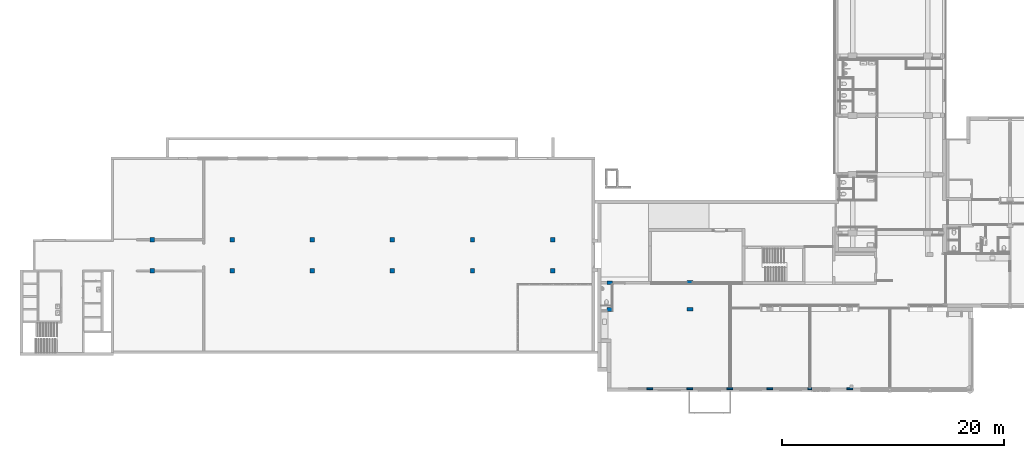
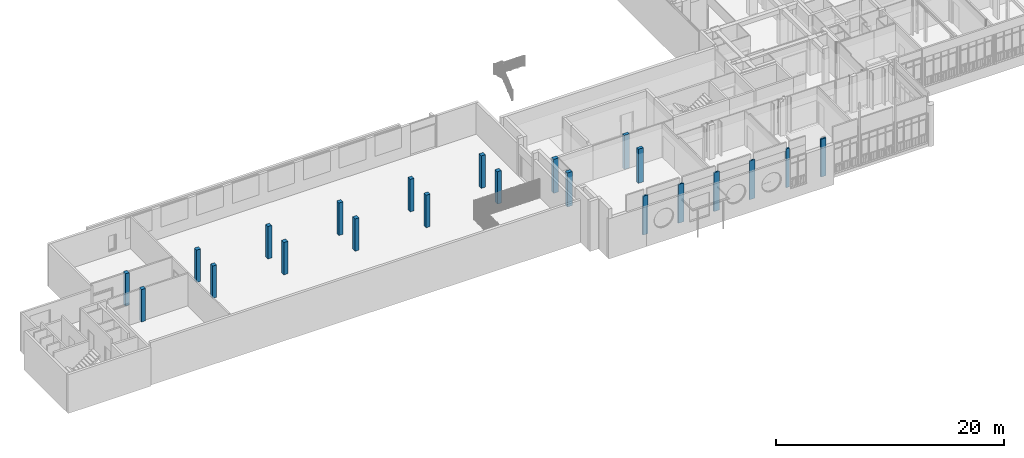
# One storey, part 47 of 135: 22 columns.
"""IFC2X3 building model written with IfcOpenShell, lengths in millimetres."""

from ifc_helpers import new_model, entity, si_unit, converted_unit, derived_unit, money_unit, direction, frame, origin_with_axes, place, context, subcontext, project, spatial, faceted_brep, material, type_object, element, save


model = new_model("IFC2X3")

# Units and contexts
model_context = context("Model", 3, precision=0.01, world=origin_with_axes(), true_north=direction((0.0, 1.0)))
body_context = subcontext(model_context, "Body", "Model", "MODEL_VIEW")
ifc_project = project(units=[si_unit("LENGTHUNIT", "METRE", prefix="MILLI"), si_unit("AREAUNIT", "SQUARE_METRE"), si_unit("VOLUMEUNIT", "CUBIC_METRE"), converted_unit("PLANEANGLEUNIT", "DEGREE", entity("IfcPlaneAngleMeasure", 0.0174532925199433), si_unit("PLANEANGLEUNIT", "RADIAN"), dimensions=[0, 0, 0, 0, 0, 0, 0]), money_unit("EUR"), converted_unit("TIMEUNIT", "Year", entity("IfcTimeMeasure", 31557600.0), si_unit("TIMEUNIT", "SECOND"), dimensions=[0, 0, 1, 0, 0, 0, 0]), si_unit("MASSUNIT", "GRAM", prefix="KILO"), si_unit("THERMODYNAMICTEMPERATUREUNIT", "DEGREE_CELSIUS"), si_unit("LUMINOUSINTENSITYUNIT", "LUMEN"), si_unit("ENERGYUNIT", "JOULE", prefix="MEGA"), derived_unit("THERMALCONDUCTANCEUNIT", [(si_unit("POWERUNIT", "WATT"), 1), (si_unit("LENGTHUNIT", "METRE"), -1), (si_unit("THERMODYNAMICTEMPERATUREUNIT", "KELVIN"), -1)]), derived_unit("SPECIFICHEATCAPACITYUNIT", [(si_unit("ENERGYUNIT", "JOULE"), 1), (si_unit("MASSUNIT", "GRAM", prefix="KILO"), -1), (si_unit("THERMODYNAMICTEMPERATUREUNIT", "KELVIN"), -1)]), derived_unit("MASSDENSITYUNIT", [(si_unit("MASSUNIT", "GRAM", prefix="KILO"), 1), (si_unit("VOLUMEUNIT", "CUBIC_METRE"), -1)])], contexts=[model_context])

# Site, building, storey
site_placement = place(None, origin_with_axes())
site = spatial("IfcSite", under=ifc_project, at=site_placement, Name="Site", CompositionType="ELEMENT")
building_placement = place(site_placement, origin_with_axes())
building = spatial("IfcBuilding", under=site, at=building_placement, Name="Naam gebouw", CompositionType="ELEMENT")
storey_placement = place(building_placement, origin_with_axes())
storey = spatial("IfcBuildingStorey", under=building, at=storey_placement, Name="Begane grond N", CompositionType="ELEMENT", Elevation=0.0)

# Columns
ifc_material = material(Name="ALG - CONSTRUCTIEF KOLOM")
column_type_1 = type_object("IfcColumnType", Name="ALG - CONSTRUCTIEF KOLOM 540 x 310", PredefinedType="COLUMN")
for number, where, z_axis, x_axis, name in (
    (1, (7200.0, 12945.85635739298, -100.0), (0.0, 0.0, 1.0), (1.0, 0.0, 0.0), "_Kolom-x"),
    (2, (7200.0, 10495.91242510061, -100.0), (0.0, 0.0, 1.0), (1.0, 0.0, 0.0), "_Kolom-x"),
):
    element("IfcColumn", number, at=place(storey_placement, frame(where, z_axis=z_axis, x_axis=x_axis)), inside=storey, type_object=column_type_1, material=ifc_material, Name=name, ObjectType="COLUMN", context=body_context, shape_type="Brep", body=[
        faceted_brep([(269.9999999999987, -155.0000000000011, 3750.0), (269.9999999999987, -155.0000000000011, 100.0), (269.9999999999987, 155.0000000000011, 100.0), (269.9999999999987, 155.0000000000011, 3750.0), (-270.0000000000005, -155.0000000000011, 3750.0), (-270.0000000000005, -155.0000000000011, 100.0), (-270.0000000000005, 155.0000000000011, 100.0), (-270.0000000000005, 155.0000000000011, 3750.0)], [[[0, 1, 2, 3]], [[4, 5, 1, 0]], [[5, 6, 2, 1]], [[3, 2, 6, 7]], [[4, 0, 3, 7]], [[7, 6, 5, 4]]]),
    ])
column_type_2 = type_object("IfcColumnType", Name="ALG - CONSTRUCTIEF KOLOM 500 x 355", PredefinedType="COLUMN")
column_1_placement = place(storey_placement, frame((0.0, 12895.91242510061, -100.0), z_axis=(0.0, 0.0, 1.0), x_axis=(1.0, 0.0, 0.0)))
element("IfcColumn", 3, at=column_1_placement, inside=storey, type_object=column_type_2, material=ifc_material, Name="_Kolom-x", ObjectType="COLUMN", context=body_context, shape_type="Brep", body=[
    faceted_brep([(249.9999999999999, -177.4999999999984, 3750.0), (249.9999999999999, -177.4999999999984, 100.0), (249.9999999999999, 177.4999999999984, 100.0), (249.9999999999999, 177.4999999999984, 3750.0), (-250.0000000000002, -177.4999999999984, 3750.0), (-250.0000000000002, -177.4999999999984, 100.0), (-250.0000000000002, 177.4999999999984, 100.0), (-250.0000000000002, 177.4999999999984, 3750.0)], [[[0, 1, 2, 3]], [[4, 5, 1, 0]], [[5, 6, 2, 1]], [[3, 2, 6, 7]], [[4, 0, 3, 7]], [[7, 6, 5, 4]]]),
])
column_2_placement = place(storey_placement, frame((0.0, 10495.91242510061, -100.0), z_axis=(0.0, 0.0, 1.0), x_axis=(1.0, 0.0, 0.0)))
element("IfcColumn", 4, at=column_2_placement, inside=storey, type_object=column_type_2, material=ifc_material, Name="_Kolom-x", ObjectType="COLUMN", context=body_context, shape_type="Brep", body=[
    faceted_brep([(250.0, -177.500000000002, 3750.0), (250.0, -177.500000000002, 100.0), (250.0, 177.500000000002, 100.0), (250.0, 177.500000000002, 3750.0), (-250.0, -177.500000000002, 3750.0), (-250.0, -177.500000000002, 100.0), (-250.0, 177.500000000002, 100.0), (-250.0, 177.500000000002, 3750.0)], [[[0, 1, 2, 3]], [[4, 5, 1, 0]], [[5, 6, 2, 1]], [[3, 2, 6, 7]], [[4, 0, 3, 7]], [[7, 6, 5, 4]]]),
])
column_type_3 = type_object("IfcColumnType", Name="ALG - CONSTRUCTIEF KOLOM 400 x 400", PredefinedType="COLUMN")
for number, where, z_axis, x_axis, name in (
    (5, (-33950.0, 16765.57502437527, 0.0), (0.0, 0.0, 1.0), (1.0, 0.0, 0.0), "_Kolom-x"),
    (6, (-41150.00000000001, 16765.57502437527, 0.0), (0.0, 0.0, 1.0), (1.0, 0.0, 0.0), "_Kolom-x"),
    (7, (-41150.00000000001, 13965.57502437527, 0.0), (0.0, 0.0, 1.0), (1.0, 0.0, 0.0), "_Kolom-x"),
    (8, (-33950.0, 13965.57502437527, 0.0), (0.0, 0.0, 1.0), (1.0, 0.0, 0.0), "_Kolom-x"),
):
    element("IfcColumn", number, at=place(storey_placement, frame(where, z_axis=z_axis, x_axis=x_axis)), inside=storey, type_object=column_type_3, material=ifc_material, Name=name, ObjectType="COLUMN", context=body_context, shape_type="Brep", body=[
        faceted_brep([(200.0000000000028, -199.9999999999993, 3470.0), (-200.0000000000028, -199.9999999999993, 3470.0), (-200.0000000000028, -199.9999999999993, 0.0), (200.0000000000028, -199.9999999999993, 0.0), (200.0000000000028, 199.9999999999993, 3470.0), (-200.0000000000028, 199.9999999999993, 3470.0), (-200.0000000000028, 199.9999999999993, 0.0), (200.0000000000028, 199.9999999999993, 0.0)], [[[0, 1, 2, 3]], [[4, 5, 1, 0]], [[1, 5, 6, 2]], [[7, 3, 2, 6]], [[4, 0, 3, 7]], [[5, 4, 7, 6]]]),
    ])
for number, where, z_axis, x_axis, name in (
    (9, (-12350.0, 16765.57502437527, 0.0), (0.0, 0.0, 1.0), (1.0, 0.0, 0.0), "_Kolom-x"),
    (10, (-26750.0, 16765.57502437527, 0.0), (0.0, 0.0, 1.0), (1.0, 0.0, 0.0), "_Kolom-x"),
    (11, (-26750.0, 13965.57502437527, 0.0), (0.0, 0.0, 1.0), (1.0, 0.0, 0.0), "_Kolom-x"),
    (12, (-19550.0, 13965.57502437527, 0.0), (0.0, 0.0, 1.0), (1.0, 0.0, 0.0), "_Kolom-x"),
    (13, (-19550.0, 16765.57502437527, 0.0), (0.0, 0.0, 1.0), (1.0, 0.0, 0.0), "_Kolom-x"),
):
    element("IfcColumn", number, at=place(storey_placement, frame(where, z_axis=z_axis, x_axis=x_axis)), inside=storey, type_object=column_type_3, material=ifc_material, Name=name, ObjectType="COLUMN", context=body_context, shape_type="Brep", body=[
        faceted_brep([(199.9999999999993, -199.9999999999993, 3470.0), (-199.9999999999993, -199.9999999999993, 3470.0), (-199.9999999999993, -199.9999999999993, 0.0), (199.9999999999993, -199.9999999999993, 0.0), (199.9999999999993, 199.9999999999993, 3470.0), (-199.9999999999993, 199.9999999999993, 3470.0), (-199.9999999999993, 199.9999999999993, 0.0), (199.9999999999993, 199.9999999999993, 0.0)], [[[0, 1, 2, 3]], [[4, 5, 1, 0]], [[1, 5, 6, 2]], [[7, 3, 2, 6]], [[4, 0, 3, 7]], [[5, 4, 7, 6]]]),
    ])
column_3_placement = place(storey_placement, frame((-5150.000000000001, 16765.57502437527, 0.0), z_axis=(0.0, 0.0, 1.0), x_axis=(1.0, 0.0, 0.0)))
element("IfcColumn", 14, at=column_3_placement, inside=storey, type_object=column_type_3, material=ifc_material, Name="_Kolom-x", ObjectType="COLUMN", context=body_context, shape_type="Brep", body=[
    faceted_brep([(199.9999999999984, -199.9999999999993, 3470.0), (-200.0000000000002, -199.9999999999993, 3470.0), (-200.0000000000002, -199.9999999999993, 0.0), (199.9999999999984, -199.9999999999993, 0.0), (199.9999999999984, 199.9999999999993, 3470.0), (-200.0000000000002, 199.9999999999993, 3470.0), (-200.0000000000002, 199.9999999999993, 0.0), (199.9999999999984, 199.9999999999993, 0.0)], [[[0, 1, 2, 3]], [[4, 5, 1, 0]], [[1, 5, 6, 2]], [[7, 3, 2, 6]], [[4, 0, 3, 7]], [[5, 4, 7, 6]]]),
])
column_4_placement = place(storey_placement, frame((-12350.0, 13965.57502437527, 0.0), z_axis=(0.0, 0.0, 1.0), x_axis=(1.0, 0.0, 0.0)))
element("IfcColumn", 15, at=column_4_placement, inside=storey, type_object=column_type_3, material=ifc_material, Name="_Kolom-x", ObjectType="COLUMN", context=body_context, shape_type="Brep", body=[
    faceted_brep([(199.9999999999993, -199.9999999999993, 3470.0), (-199.9999999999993, -199.9999999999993, 3470.0), (-199.9999999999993, -199.9999999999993, 0.0), (199.9999999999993, -199.9999999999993, 0.0), (199.9999999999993, 199.9999999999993, 3470.0), (-199.9999999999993, 199.9999999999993, 3470.0), (-199.9999999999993, 199.9999999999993, 0.0), (199.9999999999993, 199.9999999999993, 0.0)], [[[0, 1, 2, 3]], [[4, 5, 1, 0]], [[1, 5, 6, 2]], [[7, 3, 2, 6]], [[4, 0, 3, 7]], [[5, 4, 7, 6]]]),
])
column_5_placement = place(storey_placement, frame((-5150.0, 13965.57502437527, 0.0), z_axis=(0.0, 0.0, 1.0), x_axis=(1.0, 0.0, 0.0)))
element("IfcColumn", 16, at=column_5_placement, inside=storey, type_object=column_type_3, material=ifc_material, Name="_Kolom-x", ObjectType="COLUMN", context=body_context, shape_type="Brep", body=[
    faceted_brep([(200.0000000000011, -199.9999999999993, 3470.0), (-200.0000000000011, -199.9999999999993, 3470.0), (-200.0000000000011, -199.9999999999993, 0.0), (200.0000000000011, -199.9999999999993, 0.0), (200.0000000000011, 199.9999999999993, 3470.0), (-200.0000000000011, 199.9999999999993, 3470.0), (-200.0000000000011, 199.9999999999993, 0.0), (200.0000000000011, 199.9999999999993, 0.0)], [[[0, 1, 2, 3]], [[4, 5, 1, 0]], [[1, 5, 6, 2]], [[7, 3, 2, 6]], [[4, 0, 3, 7]], [[5, 4, 7, 6]]]),
])
column_type_4 = type_object("IfcColumnType", Name="ALG - CONSTRUCTIEF KOLOM 540 x 150", PredefinedType="COLUMN")
column_6_placement = place(storey_placement, frame((7199.999999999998, 3370.668707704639, 0.0), z_axis=(0.0, 0.0, 1.0), x_axis=(1.0, 0.0, 0.0)))
element("IfcColumn", 17, at=column_6_placement, inside=storey, type_object=column_type_4, material=ifc_material, Name="_Kolom-x", ObjectType="COLUMN", context=body_context, shape_type="Brep", body=[
    faceted_brep([(-270.0000000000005, -75.00000000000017, 4150.0), (-270.0000000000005, -75.00000000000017, 0.0), (270.0000000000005, -75.00000000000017, 0.0), (270.0000000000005, -75.00000000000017, 4150.0), (-270.0000000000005, 75.00000000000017, 4150.0), (-270.0000000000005, 75.00000000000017, 0.0), (270.0000000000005, 75.00000000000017, 0.0), (270.0000000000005, 75.00000000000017, 4150.0)], [[[0, 1, 2, 3]], [[4, 5, 1, 0]], [[2, 1, 5, 6]], [[3, 2, 6, 7]], [[4, 0, 3, 7]], [[7, 6, 5, 4]]]),
])
column_7_placement = place(storey_placement, frame((14400.0, 3370.668707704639, 0.0), z_axis=(0.0, 0.0, 1.0), x_axis=(1.0, 0.0, 0.0)))
element("IfcColumn", 18, at=column_7_placement, inside=storey, type_object=column_type_4, material=ifc_material, Name="_Kolom-x", ObjectType="COLUMN", context=body_context, shape_type="Brep", body=[
    faceted_brep([(-269.9999999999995, -75.00000000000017, 4150.0), (-269.9999999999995, -75.00000000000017, 0.0), (269.9999999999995, -75.00000000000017, 0.0), (269.9999999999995, -75.00000000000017, 4150.0), (-269.9999999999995, 75.00000000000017, 4150.0), (-269.9999999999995, 75.00000000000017, 0.0), (269.9999999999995, 75.00000000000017, 0.0), (269.9999999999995, 75.00000000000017, 4150.0)], [[[0, 1, 2, 3]], [[4, 5, 1, 0]], [[2, 1, 5, 6]], [[3, 2, 6, 7]], [[4, 0, 3, 7]], [[7, 6, 5, 4]]]),
])
column_8_placement = place(storey_placement, frame((21600.0, 3370.668707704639, -100.0), z_axis=(0.0, 0.0, 1.0), x_axis=(1.0, 0.0, 0.0)))
element("IfcColumn", 19, at=column_8_placement, inside=storey, type_object=column_type_4, material=ifc_material, Name="_Kolom-x", ObjectType="COLUMN", context=body_context, shape_type="Brep", body=[
    faceted_brep([(-269.9999999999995, -75.00000000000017, 4050.000000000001), (-269.9999999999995, -75.00000000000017, 0.0), (269.9999999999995, -75.00000000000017, 0.0), (269.9999999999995, -75.00000000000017, 4050.000000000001), (-269.9999999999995, 75.00000000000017, 4050.000000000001), (-269.9999999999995, 75.00000000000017, 0.0), (269.9999999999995, 75.00000000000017, 0.0), (269.9999999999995, 75.00000000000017, 4050.000000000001)], [[[0, 1, 2, 3]], [[4, 5, 1, 0]], [[2, 1, 5, 6]], [[3, 2, 6, 7]], [[4, 0, 3, 7]], [[7, 6, 5, 4]]]),
])
column_9_placement = place(storey_placement, frame((10800.0, 3370.668707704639, 0.0), z_axis=(0.0, 0.0, 1.0), x_axis=(1.0, 0.0, 0.0)))
element("IfcColumn", 20, at=column_9_placement, inside=storey, type_object=column_type_4, material=ifc_material, Name="_Kolom-x", ObjectType="COLUMN", context=body_context, shape_type="Brep", body=[
    faceted_brep([(-269.9999999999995, -75.00000000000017, 4150.0), (-269.9999999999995, -75.00000000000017, 0.0), (269.9999999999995, -75.00000000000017, 0.0), (269.9999999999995, -75.00000000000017, 4150.0), (-269.9999999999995, 75.00000000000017, 4150.0), (-269.9999999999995, 75.00000000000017, 0.0), (269.9999999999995, 75.00000000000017, 0.0), (269.9999999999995, 75.00000000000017, 4150.0)], [[[0, 1, 2, 3]], [[4, 5, 1, 0]], [[2, 1, 5, 6]], [[3, 2, 6, 7]], [[4, 0, 3, 7]], [[7, 6, 5, 4]]]),
])
column_10_placement = place(storey_placement, frame((3599.999999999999, 3370.668707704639, 0.0), z_axis=(0.0, 0.0, 1.0), x_axis=(1.0, 0.0, 0.0)))
element("IfcColumn", 21, at=column_10_placement, inside=storey, type_object=column_type_4, material=ifc_material, Name="_Kolom-x", ObjectType="COLUMN", context=body_context, shape_type="Brep", body=[
    faceted_brep([(-270.0, -75.00000000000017, 4150.0), (-270.0, -75.00000000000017, 0.0), (270.0, -75.00000000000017, 0.0), (270.0, -75.00000000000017, 4150.0), (-270.0, 75.00000000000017, 4150.0), (-270.0, 75.00000000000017, 0.0), (270.0, 75.00000000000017, 0.0), (270.0, 75.00000000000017, 4150.0)], [[[0, 1, 2, 3]], [[4, 5, 1, 0]], [[2, 1, 5, 6]], [[3, 2, 6, 7]], [[4, 0, 3, 7]], [[7, 6, 5, 4]]]),
])
column_type_5 = type_object("IfcColumnType", Name="ALG - CONSTRUCTIEF KOLOM 350 x 150", PredefinedType="COLUMN")
column_11_placement = place(storey_placement, frame((18000.0, 3370.668707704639, 0.0), z_axis=(0.0, 0.0, 1.0), x_axis=(1.0, 0.0, 0.0)))
element("IfcColumn", 22, at=column_11_placement, inside=storey, type_object=column_type_5, material=ifc_material, Name="_Kolom-x", ObjectType="COLUMN", context=body_context, shape_type="Brep", body=[
    faceted_brep([(-175.0000000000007, -75.00000000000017, 4150.0), (-175.0000000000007, -75.00000000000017, 0.0), (175.0000000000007, -75.00000000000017, 0.0), (175.0000000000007, -75.00000000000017, 4150.0), (-175.0000000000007, 75.00000000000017, 4150.0), (-175.0000000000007, 75.00000000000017, 0.0), (175.0000000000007, 75.00000000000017, 0.0), (175.0000000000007, 75.00000000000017, 4150.0)], [[[0, 1, 2, 3]], [[4, 5, 1, 0]], [[2, 1, 5, 6]], [[3, 2, 6, 7]], [[4, 0, 3, 7]], [[7, 6, 5, 4]]]),
])

save(model, "model.ifc")
